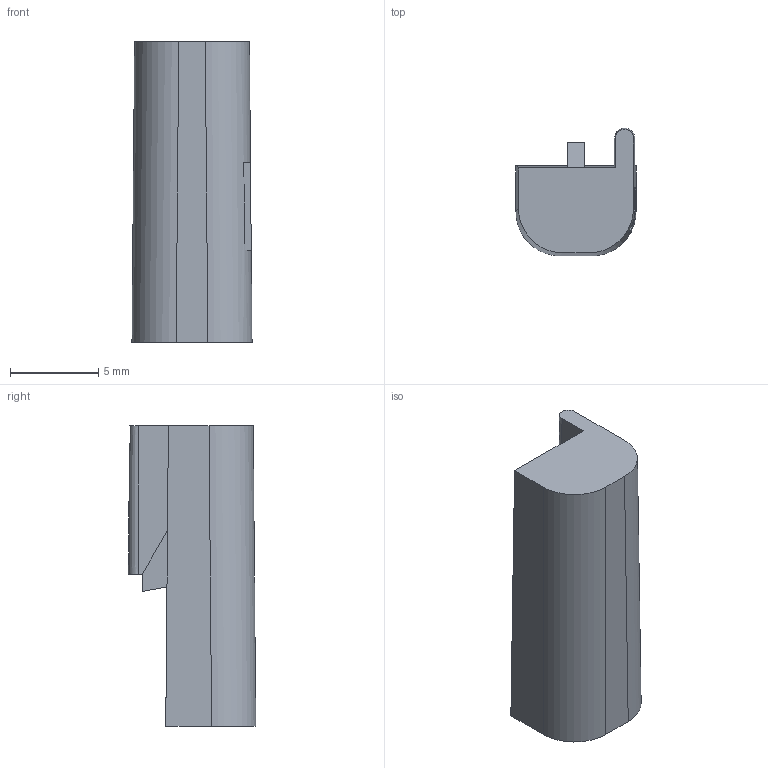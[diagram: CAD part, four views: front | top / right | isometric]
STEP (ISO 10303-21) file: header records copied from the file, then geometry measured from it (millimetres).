
FILE_DESCRIPTION(/* description */ (''),/* implementation_level */ '2;1');
FILE_NAME(/* name */ '12047682-ENV1105.stp',/* time_stamp */ '2019-07-24T16:11:37+06:00',/* author */ (''),/* organization */ (''),/* preprocessor_version */ 'ST-DEVELOPER v16',/* originating_system */ 'SIEMENS PLM Software NX 11.0',/* authorisation */ '');
FILE_SCHEMA (('AUTOMOTIVE_DESIGN { 1 0 10303 214 3 1 1 1 }'));
Length unit declared in the file: millimetre
Products named in the file (1): 12047682-ENV11_05-CONN
Bounding box: 6.8 x 7.22 x 17 mm (x, y, z)
Volume: 530.1 mm3; surface area: 468.6 mm2
Topology: 1 solids, 1 shells, 21 faces, 54 edges, 36 vertices
Faces by surface type: plane 18, cylinder 2, cone 1
Entity records: 661 total; most frequent: CARTESIAN_POINT 112, ORIENTED_EDGE 108, DIRECTION 107, EDGE_CURVE 54, LINE 45, VECTOR 45, VERTEX_POINT 36, AXIS2_PLACEMENT_3D 31
